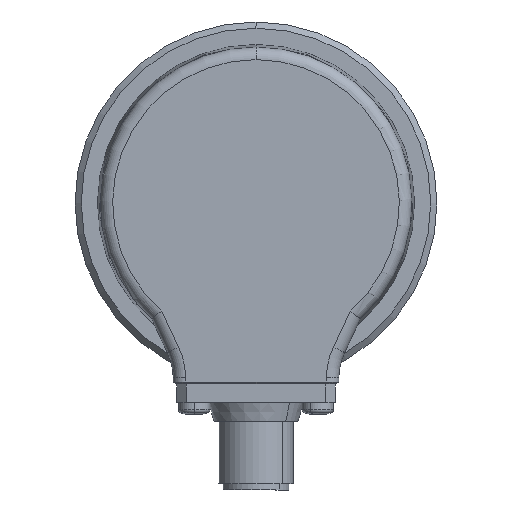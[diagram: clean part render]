
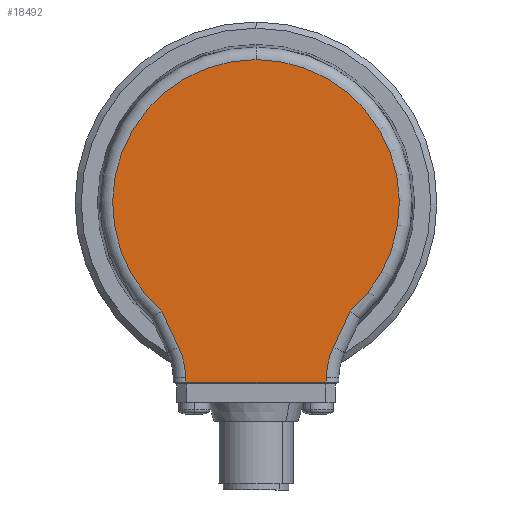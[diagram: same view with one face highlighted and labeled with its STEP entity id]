
A CAD part, left-side view. The second image highlights one B-rep face of the part: STEP entity #18492.
In plain terms, the highlighted planar face has unit normal (-1, 0, 0).
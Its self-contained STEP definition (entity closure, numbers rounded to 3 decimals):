
#3818 = CARTESIAN_POINT ( 'NONE',  ( -21., 11.268, -27.974 ) ) ;
#3862 = DIRECTION ( 'NONE',  ( 0., -1., 0. ) ) ;
#3863 = VECTOR ( 'NONE', #3862, 1000. ) ;
#3864 = CARTESIAN_POINT ( 'NONE',  ( -21., -11.25, -28.695 ) ) ;
#3865 = LINE ( 'NONE', #3864, #3863 ) ;
#5663 = VERTEX_POINT ( 'NONE', #14239 ) ;
#5693 = ORIENTED_EDGE ( 'NONE', *, *, #17807, .T. ) ;
#6952 = CARTESIAN_POINT ( 'NONE',  ( -21., -15.091, -17.32 ) ) ;
#6958 = DIRECTION ( 'NONE',  ( 0., -0.017, 1. ) ) ;
#6959 = VECTOR ( 'NONE', #6958, 1000. ) ;
#6960 = CARTESIAN_POINT ( 'NONE',  ( -21., -11.752, -0.205 ) ) ;
#6961 = LINE ( 'NONE', #6960, #6959 ) ;
#6967 = CARTESIAN_POINT ( 'NONE',  ( -21., -11.255, -28.695 ) ) ;
#6990 = DIRECTION ( 'NONE',  ( 0., 0., 1. ) ) ;
#6991 = DIRECTION ( 'NONE',  ( 1., 0., 0. ) ) ;
#6992 = CARTESIAN_POINT ( 'NONE',  ( -21., 23.266, -28.183 ) ) ;
#6993 = AXIS2_PLACEMENT_3D ( 'NONE', #6992, #6991, #6990 ) ;
#6998 = CIRCLE ( 'NONE', #6993, 12. ) ;
#7012 = DIRECTION ( 'NONE',  ( 0., -0.017, -1. ) ) ;
#7013 = VECTOR ( 'NONE', #7012, 1000. ) ;
#7014 = CARTESIAN_POINT ( 'NONE',  ( -21., 11.752, -0.205 ) ) ;
#7015 = LINE ( 'NONE', #7014, #7013 ) ;
#7042 = FACE_OUTER_BOUND ( 'NONE', #17797, .T. ) ;
#7055 = AXIS2_PLACEMENT_3D ( 'NONE', #7109, #7108, #7107 ) ;
#7056 = CIRCLE ( 'NONE', #7055, 12. ) ;
#7058 = CARTESIAN_POINT ( 'NONE',  ( -21., -12.39, -23.112 ) ) ;
#7072 = DIRECTION ( 'NONE',  ( 0., 0., 1. ) ) ;
#7073 = DIRECTION ( 'NONE',  ( 1., 0., 0. ) ) ;
#7074 = CARTESIAN_POINT ( 'NONE',  ( -21., 0., 0. ) ) ;
#7075 = AXIS2_PLACEMENT_3D ( 'NONE', #7074, #7073, #7072 ) ;
#7077 = PLANE ( 'NONE',  #7075 ) ;
#7107 = DIRECTION ( 'NONE',  ( 0., 0., 1. ) ) ;
#7108 = DIRECTION ( 'NONE',  ( 1., 0., 0. ) ) ;
#7109 = CARTESIAN_POINT ( 'NONE',  ( -21., -23.266, -28.183 ) ) ;
#10493 = EDGE_CURVE ( 'NONE', #18473, #11076, #15726, .T. ) ;
#10663 = ORIENTED_EDGE ( 'NONE', *, *, #10493, .T. ) ;
#11022 = VERTEX_POINT ( 'NONE', #15761 ) ;
#11023 = EDGE_CURVE ( 'NONE', #11077, #11022, #15755, .T. ) ;
#11024 = ORIENTED_EDGE ( 'NONE', *, *, #11023, .T. ) ;
#11026 = ORIENTED_EDGE ( 'NONE', *, *, #11085, .T. ) ;
#11028 = ORIENTED_EDGE ( 'NONE', *, *, #11031, .T. ) ;
#11031 = EDGE_CURVE ( 'NONE', #18504, #18473, #15766, .T. ) ;
#11032 = ORIENTED_EDGE ( 'NONE', *, *, #18505, .T. ) ;
#11033 = VERTEX_POINT ( 'NONE', #15817 ) ;
#11076 = VERTEX_POINT ( 'NONE', #15974 ) ;
#11077 = VERTEX_POINT ( 'NONE', #15969 ) ;
#11085 = EDGE_CURVE ( 'NONE', #11076, #11077, #16002, .T. ) ;
#14239 = CARTESIAN_POINT ( 'NONE',  ( -21., 11.255, -28.695 ) ) ;
#15722 = DIRECTION ( 'NONE',  ( 0., 0., 1. ) ) ;
#15723 = DIRECTION ( 'NONE',  ( -1., 0., 0. ) ) ;
#15724 = CARTESIAN_POINT ( 'NONE',  ( -21., 0., 0. ) ) ;
#15725 = AXIS2_PLACEMENT_3D ( 'NONE', #15724, #15723, #15722 ) ;
#15726 = CIRCLE ( 'NONE', #15725, 22.972 ) ;
#15752 = DIRECTION ( 'NONE',  ( 0., -0.423, -0.906 ) ) ;
#15753 = VECTOR ( 'NONE', #15752, 1000. ) ;
#15754 = CARTESIAN_POINT ( 'NONE',  ( -21., 12.39, -23.112 ) ) ;
#15755 = LINE ( 'NONE', #15754, #15753 ) ;
#15761 = CARTESIAN_POINT ( 'NONE',  ( -21., 12.39, -23.112 ) ) ;
#15766 = LINE ( 'NONE', #15820, #15819 ) ;
#15817 = CARTESIAN_POINT ( 'NONE',  ( -21., -11.268, -27.974 ) ) ;
#15818 = DIRECTION ( 'NONE',  ( 0., -0.423, 0.906 ) ) ;
#15819 = VECTOR ( 'NONE', #15818, 1000. ) ;
#15820 = CARTESIAN_POINT ( 'NONE',  ( -21., -14.953, -17.615 ) ) ;
#15969 = CARTESIAN_POINT ( 'NONE',  ( -21., 15.091, -17.32 ) ) ;
#15974 = CARTESIAN_POINT ( 'NONE',  ( -21., 0., 22.972 ) ) ;
#15998 = DIRECTION ( 'NONE',  ( 0., 0., 1. ) ) ;
#15999 = DIRECTION ( 'NONE',  ( -1., 0., 0. ) ) ;
#16000 = CARTESIAN_POINT ( 'NONE',  ( -21., 0., 0. ) ) ;
#16001 = AXIS2_PLACEMENT_3D ( 'NONE', #16000, #15999, #15998 ) ;
#16002 = CIRCLE ( 'NONE', #16001, 22.972 ) ;
#17776 = VERTEX_POINT ( 'NONE', #3818 ) ;
#17797 = EDGE_LOOP ( 'NONE', ( #18489, #5693, #18471, #11032, #11028, #10663, #11026, #11024, #18478 ) ) ;
#17807 = EDGE_CURVE ( 'NONE', #5663, #18469, #3865, .T. ) ;
#18469 = VERTEX_POINT ( 'NONE', #6967 ) ;
#18470 = EDGE_CURVE ( 'NONE', #18469, #11033, #6961, .T. ) ;
#18471 = ORIENTED_EDGE ( 'NONE', *, *, #18470, .T. ) ;
#18473 = VERTEX_POINT ( 'NONE', #6952 ) ;
#18478 = ORIENTED_EDGE ( 'NONE', *, *, #18479, .T. ) ;
#18479 = EDGE_CURVE ( 'NONE', #11022, #17776, #6998, .T. ) ;
#18486 = EDGE_CURVE ( 'NONE', #17776, #5663, #7015, .T. ) ;
#18489 = ORIENTED_EDGE ( 'NONE', *, *, #18486, .T. ) ;
#18492 = ADVANCED_FACE ( 'NONE', ( #7042 ), #7077, .F. ) ;
#18504 = VERTEX_POINT ( 'NONE', #7058 ) ;
#18505 = EDGE_CURVE ( 'NONE', #11033, #18504, #7056, .T. ) ;
